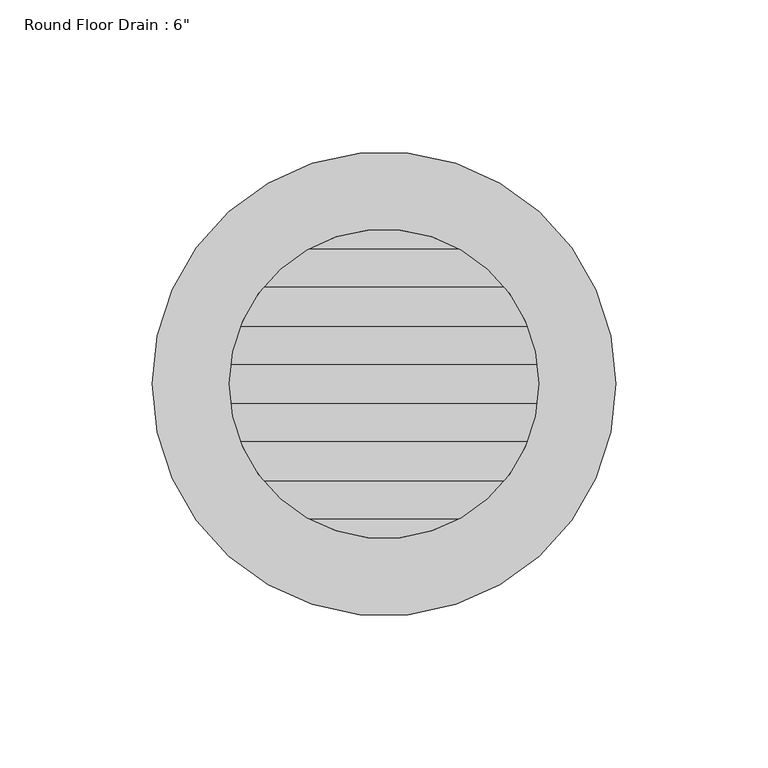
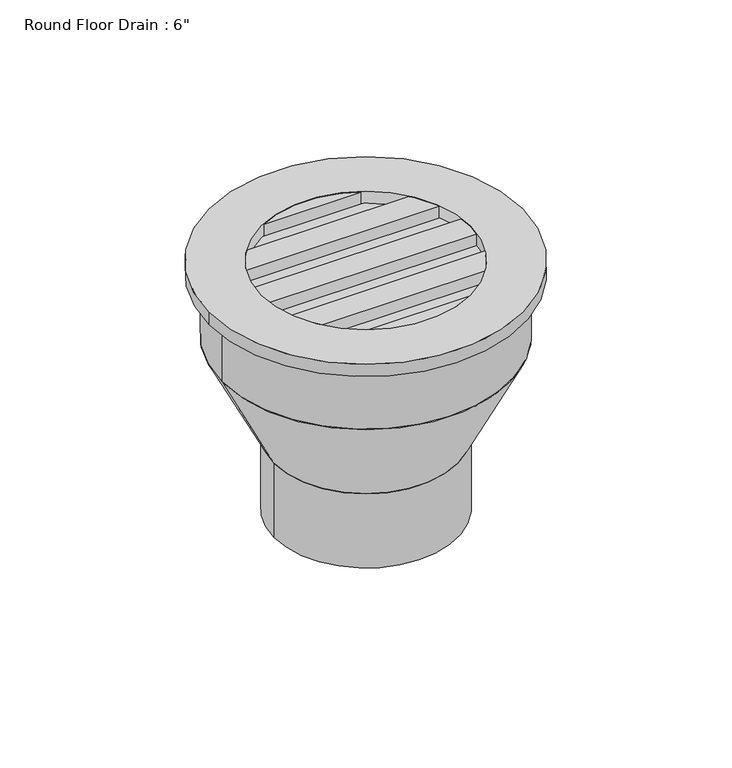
"""IFC4 building model written with IfcOpenShell, lengths in millimetres: flow terminal geometry."""

from ifc_helpers import new_model, si_unit, point, frame, origin, origin_with_axes, origin_2d, place, context, project, spatial, polyline, circle_curve, trimmed, segment, composite_curve, outline, extrude, source, transform, mapped, element, save
from ifc_brep_helpers import plane_surface, revolved_surface, advanced_brep


def flow_terminal_8c04bb20(model_context):
    return source(origin(), model_context, "Body", "SolidModel", [
        extrude(outline(composite_curve([segment(trimmed(circle_curve(origin_2d(), 44.45), [point((-44.45, 0.0))], [point((44.45, 0.0))], False, "CARTESIAN"), True, "CONTINUOUS"), segment(trimmed(circle_curve(origin_2d(), 44.45), [point((44.45, 0.0))], [point((-44.45, 0.0))], False, "CARTESIAN"), True, "CONTINUOUS")], self_intersect=False)), frame((0.0, 0.0, -120.65), z_axis=(0.0, 0.0, 1.0), x_axis=(1.0, 0.0, 0.0)), (0.0, 0.0, 1.0), 38.1),
        advanced_brep(
        [(-44.45, 0.0, -82.55), (44.45, 0.0, -82.55), (-69.85, 0.0, -31.75), (69.85, 0.0, -31.75)],
        [
            (0, 1, circle_curve(frame((0.0, 0.0, -82.55), z_axis=(0.0, 0.0, -1.0), x_axis=(-1.0, 0.0, 0.0)), 44.45)),
            (1, 0, circle_curve(frame((0.0, 0.0, -82.55), z_axis=(0.0, 0.0, -1.0), x_axis=(1.0, 0.0, 0.0)), 44.45)),
            (2, 3, circle_curve(frame((0.0, 0.0, -31.75), z_axis=(0.0, 0.0, 1.0), x_axis=(1.0, 0.0, 0.0)), 69.85)),
            (3, 2, circle_curve(frame((0.0, 0.0, -31.75), z_axis=(0.0, 0.0, 1.0), x_axis=(-1.0, 0.0, 0.0)), 69.85)),
            (3, 1),
            (0, 2),
        ],
        [
            plane_surface(frame((0.0, 0.0, -82.55), z_axis=(0.0, 0.0, -1.0), x_axis=(0.0, -1.0, 0.0))),
            plane_surface(frame((0.0, 0.0, -31.75), z_axis=(0.0, 0.0, 1.0), x_axis=(0.0, -1.0, 0.0))),
            revolved_surface(polyline([(-44.449999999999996, 0.0, -82.55), (-69.85, 0.0, -31.75)]), (0.0, 0.0, -171.45), (0.0, 0.0, 1.0)),
            revolved_surface(polyline([(44.449999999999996, 0.0, -82.55), (69.85, 0.0, -31.75)]), (0.0, 0.0, -171.45), (0.0, 0.0, 1.0)),
        ],
        [
            (0, [[1, 2]]),
            (1, [[3, 4]]),
            (2, [[-4, 5, -1, 6]]),
            (3, [[-3, -6, -2, -5]]),
        ],
    ),
        extrude(outline(composite_curve([segment(trimmed(circle_curve(origin_2d(), 69.85), [point((-69.85, 0.0))], [point((69.85, 0.0))], False, "CARTESIAN"), True, "CONTINUOUS"), segment(trimmed(circle_curve(origin_2d(), 69.85), [point((69.85, 0.0))], [point((-69.85, 0.0))], False, "CARTESIAN"), True, "CONTINUOUS")], self_intersect=False)), frame((0.0, 0.0, -31.75), z_axis=(0.0, 0.0, 1.0), x_axis=(1.0, 0.0, 0.0)), (0.0, 0.0, 1.0), 31.75),
        extrude(outline(composite_curve([segment(trimmed(circle_curve(origin_2d(), 76.2), [point((-76.2, 0.0))], [point((76.2, 0.0))], False, "CARTESIAN"), True, "CONTINUOUS"), segment(trimmed(circle_curve(origin_2d(), 76.2), [point((76.2, 0.0))], [point((-76.2, 0.0))], False, "CARTESIAN"), True, "CONTINUOUS")], self_intersect=False), holes=[composite_curve([segment(trimmed(circle_curve(origin_2d(), 50.8), [point((-50.8, 0.0))], [point((50.8, 0.0))], True, "CARTESIAN"), True, "CONTINUOUS"), segment(trimmed(circle_curve(origin_2d(), 50.8), [point((50.8, 0.0))], [point((-50.8, 0.0))], True, "CARTESIAN"), True, "CONTINUOUS")], self_intersect=False)]), origin_with_axes(), (0.0, 0.0, 1.0), 6.35),
        extrude(outline(composite_curve([segment(trimmed(circle_curve(origin_2d(), 50.8), [point((24.5934442, -44.45))], [point((-24.5934442, -44.45))], False, "CARTESIAN"), True, "CONTINUOUS"), segment(polyline([(-24.5934442, -44.45), (24.5934442, -44.45)]), True, "CONTINUOUS")], self_intersect=False)), origin_with_axes(), (0.0, 0.0, 1.0), 6.35),
        extrude(outline(composite_curve([segment(polyline([(39.6557373, -31.75), (-39.6557373, -31.75)]), True, "CONTINUOUS"), segment(trimmed(circle_curve(origin_2d(), 50.8), [point((-39.6557373, -31.75))], [point((-47.0928604, -19.05))], False, "CARTESIAN"), True, "CONTINUOUS"), segment(polyline([(-47.0928604, -19.05), (47.0928604, -19.05)]), True, "CONTINUOUS"), segment(trimmed(circle_curve(origin_2d(), 50.8), [point((47.0928604, -19.05))], [point((39.6557373, -31.75))], False, "CARTESIAN"), True, "CONTINUOUS")], self_intersect=False)), origin_with_axes(), (0.0, 0.0, 1.0), 6.35),
        extrude(outline(composite_curve([segment(trimmed(circle_curve(origin_2d(), 50.8), [point((-24.5934442, 44.45))], [point((24.5934442, 44.45))], False, "CARTESIAN"), True, "CONTINUOUS"), segment(polyline([(24.5934442, 44.45), (-24.5934442, 44.45)]), True, "CONTINUOUS")], self_intersect=False)), origin_with_axes(), (0.0, 0.0, 1.0), 6.35),
        extrude(outline(composite_curve([segment(polyline([(-39.6557373, 31.75), (39.6557373, 31.75)]), True, "CONTINUOUS"), segment(trimmed(circle_curve(origin_2d(), 50.8), [point((39.6557373, 31.75))], [point((47.0928604, 19.05))], False, "CARTESIAN"), True, "CONTINUOUS"), segment(polyline([(47.0928604, 19.05), (-47.0928604, 19.05)]), True, "CONTINUOUS"), segment(trimmed(circle_curve(origin_2d(), 50.8), [point((-47.0928604, 19.05))], [point((-39.6557373, 31.75))], False, "CARTESIAN"), True, "CONTINUOUS")], self_intersect=False)), origin_with_axes(), (0.0, 0.0, 1.0), 6.35),
        extrude(outline(composite_curve([segment(trimmed(circle_curve(origin_2d(), 50.8), [point((50.8, 0.0))], [point((50.4015625, -6.35))], False, "CARTESIAN"), True, "CONTINUOUS"), segment(polyline([(50.4015625, -6.35), (-50.4015625, -6.35)]), True, "CONTINUOUS"), segment(trimmed(circle_curve(origin_2d(), 50.8), [point((-50.4015625, -6.35))], [point((-50.8, 0.0))], False, "CARTESIAN"), True, "CONTINUOUS"), segment(trimmed(circle_curve(origin_2d(), 50.8), [point((-50.8, 0.0))], [point((-50.4015625, 6.35))], False, "CARTESIAN"), True, "CONTINUOUS"), segment(polyline([(-50.4015625, 6.35), (50.4015625, 6.35)]), True, "CONTINUOUS"), segment(trimmed(circle_curve(origin_2d(), 50.8), [point((50.4015625, 6.35))], [point((50.8, 0.0))], False, "CARTESIAN"), True, "CONTINUOUS")], self_intersect=False)), origin_with_axes(), (0.0, 0.0, 1.0), 6.35),
    ])


if __name__ == "__main__":
    model = new_model("IFC4")
    model_context = context("Model", 3, world=origin())
    ifc_project = project(units=[si_unit("LENGTHUNIT", "METRE", prefix="MILLI")], contexts=[model_context])
    site = spatial("IfcSite", under=ifc_project)
    building = spatial("IfcBuilding", under=site)
    placement = place(None, origin())
    flow_terminal_shape = flow_terminal_8c04bb20(model_context)
    element("IfcFlowTerminal", 1, ObjectType="Round Floor Drain : 6\"", at=placement, inside=building, context=model_context, shape_type="MappedRepresentation", body=[
        mapped(flow_terminal_shape, transform((0.0, 0.0, 0.0), x_axis=(1.0, 0.0, 0.0), y_axis=(0.0, 1.0, 0.0), z_axis=(0.0, 0.0, 1.0))),
    ])
    save(model, "model.ifc")
